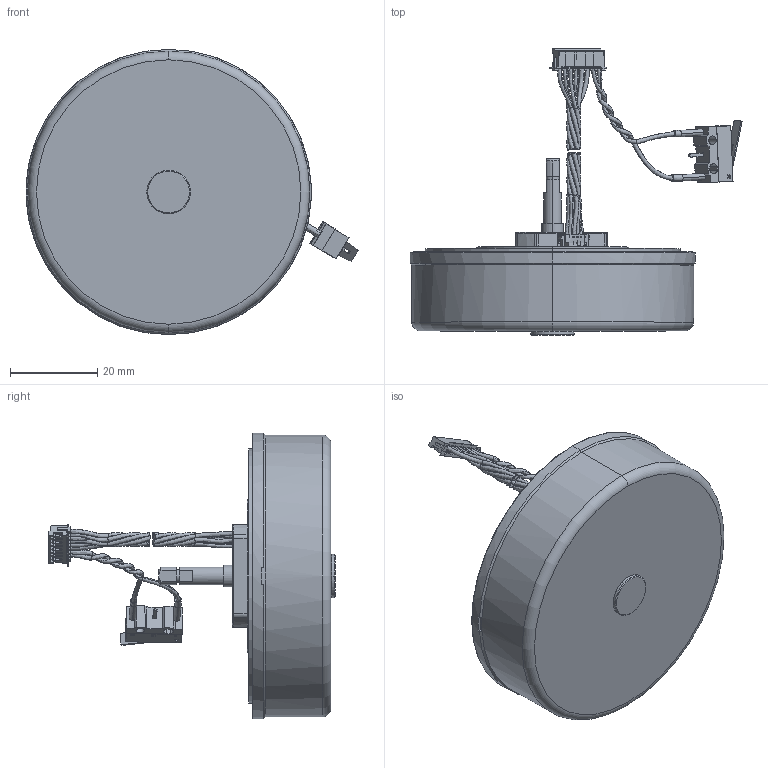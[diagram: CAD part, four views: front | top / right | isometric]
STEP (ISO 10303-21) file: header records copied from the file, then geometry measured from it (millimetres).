
FILE_DESCRIPTION (( 'STEP AP203' ), '1' );
FILE_NAME ('M0603B_222 µç»ú±¾Ìå.STEP', '2024-10-16T07:21:17', ( '' ), ( '' ), 'SwSTEP 2.0', 'SolidWorks 2022', '' );
FILE_SCHEMA (( 'CONFIG_CONTROL_DESIGN' ));
Length unit declared in the file: millimetre
Products named in the file (1): M0603B_222 萇儂掛极
Bounding box: 76.21 x 65.76 x 65.5 mm (x, y, z)
Surface area: 16170.6 mm2 (no closed solid volume)
Topology: 0 solids, 91 shells, 3570 faces, 9976 edges, 6531 vertices
Faces by surface type: plane 1892, bspline 1379, cylinder 242, torus 41, cone 16
Entity records: 140034 total; most frequent: CARTESIAN_POINT 60902, ORIENTED_EDGE 19374, DIRECTION 10865, EDGE_CURVE 9976, VERTEX_POINT 6531, LINE 5355, VECTOR 5355, B_SPLINE_CURVE_WITH_KNOTS 3804
